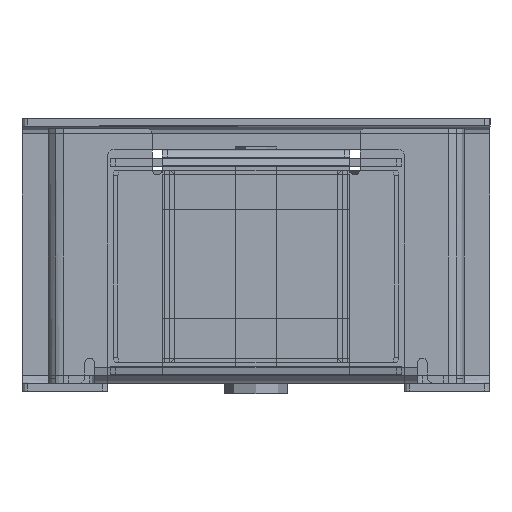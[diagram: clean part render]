
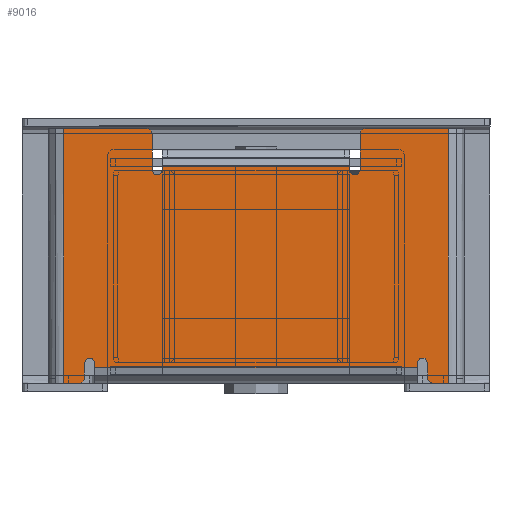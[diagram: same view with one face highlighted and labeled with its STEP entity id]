
A CAD part, front view. The second image highlights one B-rep face of the part: STEP entity #9016.
In plain terms, the highlighted planar face has unit normal (0, -1, 0).
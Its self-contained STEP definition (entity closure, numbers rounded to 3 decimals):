
#382=CIRCLE('',#9705,1.);
#383=CIRCLE('',#9706,1.);
#384=CIRCLE('',#9707,1.);
#385=CIRCLE('',#9708,1.);
#386=CIRCLE('',#9709,1.);
#387=CIRCLE('',#9710,1.);
#388=CIRCLE('',#9711,1.);
#389=CIRCLE('',#9712,1.);
#801=FACE_OUTER_BOUND('',#1293,.T.);
#1293=EDGE_LOOP('',(#7093,#7094,#7095,#7096,#7097,#7098,#7099,#7100,#7101,
#7102,#7103,#7104,#7105,#7106,#7107,#7108,#7109,#7110,#7111,#7112,#7113,
#7114,#7115,#7116));
#2124=LINE('',#14150,#3079);
#2159=LINE('',#14264,#3114);
#2160=LINE('',#14266,#3115);
#2161=LINE('',#14270,#3116);
#2162=LINE('',#14274,#3117);
#2163=LINE('',#14276,#3118);
#2164=LINE('',#14278,#3119);
#2165=LINE('',#14282,#3120);
#2166=LINE('',#14286,#3121);
#2167=LINE('',#14288,#3122);
#2168=LINE('',#14290,#3123);
#2169=LINE('',#14294,#3124);
#2170=LINE('',#14298,#3125);
#2171=LINE('',#14300,#3126);
#2172=LINE('',#14302,#3127);
#2173=LINE('',#14305,#3128);
#3079=VECTOR('',#11601,10.);
#3114=VECTOR('',#11688,10.);
#3115=VECTOR('',#11689,10.);
#3116=VECTOR('',#11692,10.);
#3117=VECTOR('',#11695,10.);
#3118=VECTOR('',#11696,10.);
#3119=VECTOR('',#11697,10.);
#3120=VECTOR('',#11700,10.);
#3121=VECTOR('',#11703,10.);
#3122=VECTOR('',#11704,10.);
#3123=VECTOR('',#11705,10.);
#3124=VECTOR('',#11708,10.);
#3125=VECTOR('',#11711,10.);
#3126=VECTOR('',#11712,10.);
#3127=VECTOR('',#11713,10.);
#3128=VECTOR('',#11716,10.);
#3877=VERTEX_POINT('',#14147);
#3878=VERTEX_POINT('',#14149);
#3930=VERTEX_POINT('',#14261);
#3931=VERTEX_POINT('',#14263);
#3932=VERTEX_POINT('',#14265);
#3933=VERTEX_POINT('',#14267);
#3934=VERTEX_POINT('',#14269);
#3935=VERTEX_POINT('',#14271);
#3936=VERTEX_POINT('',#14273);
#3937=VERTEX_POINT('',#14275);
#3938=VERTEX_POINT('',#14277);
#3939=VERTEX_POINT('',#14279);
#3940=VERTEX_POINT('',#14281);
#3941=VERTEX_POINT('',#14283);
#3942=VERTEX_POINT('',#14285);
#3943=VERTEX_POINT('',#14287);
#3944=VERTEX_POINT('',#14289);
#3945=VERTEX_POINT('',#14291);
#3946=VERTEX_POINT('',#14293);
#3947=VERTEX_POINT('',#14295);
#3948=VERTEX_POINT('',#14297);
#3949=VERTEX_POINT('',#14299);
#3950=VERTEX_POINT('',#14301);
#3951=VERTEX_POINT('',#14303);
#4960=EDGE_CURVE('',#3877,#3878,#2124,.T.);
#5014=EDGE_CURVE('',#3878,#3930,#382,.T.);
#5015=EDGE_CURVE('',#3877,#3931,#2159,.T.);
#5016=EDGE_CURVE('',#3932,#3931,#2160,.T.);
#5017=EDGE_CURVE('',#3933,#3932,#383,.T.);
#5018=EDGE_CURVE('',#3933,#3934,#2161,.T.);
#5019=EDGE_CURVE('',#3935,#3934,#384,.T.);
#5020=EDGE_CURVE('',#3935,#3936,#2162,.T.);
#5021=EDGE_CURVE('',#3936,#3937,#2163,.T.);
#5022=EDGE_CURVE('',#3937,#3938,#2164,.T.);
#5023=EDGE_CURVE('',#3939,#3938,#385,.T.);
#5024=EDGE_CURVE('',#3939,#3940,#2165,.T.);
#5025=EDGE_CURVE('',#3941,#3940,#386,.T.);
#5026=EDGE_CURVE('',#3942,#3941,#2166,.T.);
#5027=EDGE_CURVE('',#3942,#3943,#2167,.T.);
#5028=EDGE_CURVE('',#3944,#3943,#2168,.T.);
#5029=EDGE_CURVE('',#3945,#3944,#387,.T.);
#5030=EDGE_CURVE('',#3945,#3946,#2169,.T.);
#5031=EDGE_CURVE('',#3947,#3946,#388,.T.);
#5032=EDGE_CURVE('',#3947,#3948,#2170,.T.);
#5033=EDGE_CURVE('',#3948,#3949,#2171,.T.);
#5034=EDGE_CURVE('',#3949,#3950,#2172,.T.);
#5035=EDGE_CURVE('',#3951,#3950,#389,.T.);
#5036=EDGE_CURVE('',#3951,#3930,#2173,.T.);
#7093=ORIENTED_EDGE('',*,*,#5014,.F.);
#7094=ORIENTED_EDGE('',*,*,#4960,.F.);
#7095=ORIENTED_EDGE('',*,*,#5015,.T.);
#7096=ORIENTED_EDGE('',*,*,#5016,.F.);
#7097=ORIENTED_EDGE('',*,*,#5017,.F.);
#7098=ORIENTED_EDGE('',*,*,#5018,.T.);
#7099=ORIENTED_EDGE('',*,*,#5019,.F.);
#7100=ORIENTED_EDGE('',*,*,#5020,.T.);
#7101=ORIENTED_EDGE('',*,*,#5021,.T.);
#7102=ORIENTED_EDGE('',*,*,#5022,.T.);
#7103=ORIENTED_EDGE('',*,*,#5023,.F.);
#7104=ORIENTED_EDGE('',*,*,#5024,.T.);
#7105=ORIENTED_EDGE('',*,*,#5025,.F.);
#7106=ORIENTED_EDGE('',*,*,#5026,.F.);
#7107=ORIENTED_EDGE('',*,*,#5027,.T.);
#7108=ORIENTED_EDGE('',*,*,#5028,.F.);
#7109=ORIENTED_EDGE('',*,*,#5029,.F.);
#7110=ORIENTED_EDGE('',*,*,#5030,.T.);
#7111=ORIENTED_EDGE('',*,*,#5031,.F.);
#7112=ORIENTED_EDGE('',*,*,#5032,.T.);
#7113=ORIENTED_EDGE('',*,*,#5033,.T.);
#7114=ORIENTED_EDGE('',*,*,#5034,.T.);
#7115=ORIENTED_EDGE('',*,*,#5035,.F.);
#7116=ORIENTED_EDGE('',*,*,#5036,.T.);
#8111=PLANE('',#9704);
#9016=ADVANCED_FACE('',(#801),#8111,.T.);
#9704=AXIS2_PLACEMENT_3D('',#14260,#11684,#11685);
#9705=AXIS2_PLACEMENT_3D('',#14262,#11686,#11687);
#9706=AXIS2_PLACEMENT_3D('',#14268,#11690,#11691);
#9707=AXIS2_PLACEMENT_3D('',#14272,#11693,#11694);
#9708=AXIS2_PLACEMENT_3D('',#14280,#11698,#11699);
#9709=AXIS2_PLACEMENT_3D('',#14284,#11701,#11702);
#9710=AXIS2_PLACEMENT_3D('',#14292,#11706,#11707);
#9711=AXIS2_PLACEMENT_3D('',#14296,#11709,#11710);
#9712=AXIS2_PLACEMENT_3D('',#14304,#11714,#11715);
#11601=DIRECTION('',(-1.,0.,0.));
#11684=DIRECTION('center_axis',(0.,-1.,0.));
#11685=DIRECTION('ref_axis',(0.,0.,
1.));
#11686=DIRECTION('center_axis',(0.,1.,0.));
#11687=DIRECTION('ref_axis',(-0.707,0.,-0.707));
#11688=DIRECTION('',(0.,0.,1.));
#11689=DIRECTION('',(1.,0.,0.));
#11690=DIRECTION('center_axis',(0.,1.,0.));
#11691=DIRECTION('ref_axis',(-0.707,0.,0.707));
#11692=DIRECTION('',(0.,0.,-1.));
#11693=DIRECTION('center_axis',(0.,-1.,0.));
#11694=DIRECTION('ref_axis',(-0.707,0.,-0.707));
#11695=DIRECTION('',(0.,0.,1.));
#11696=DIRECTION('',(-1.,0.,0.));
#11697=DIRECTION('',(0.,0.,-1.));
#11698=DIRECTION('center_axis',(0.,-1.,0.));
#11699=DIRECTION('ref_axis',(-0.707,0.,-0.707));
#11700=DIRECTION('',(0.,0.,1.));
#11701=DIRECTION('center_axis',(0.,1.,0.));
#11702=DIRECTION('ref_axis',(0.707,0.,0.707));
#11703=DIRECTION('',(1.,0.,0.));
#11704=DIRECTION('',(0.,0.,-1.));
#11705=DIRECTION('',(-1.,0.,0.));
#11706=DIRECTION('center_axis',(0.,1.,0.));
#11707=DIRECTION('ref_axis',(0.707,0.,-0.707));
#11708=DIRECTION('',(0.,0.,1.));
#11709=DIRECTION('center_axis',(0.,-1.,0.));
#11710=DIRECTION('ref_axis',(0.707,0.,0.707));
#11711=DIRECTION('',(0.,0.,-1.));
#11712=DIRECTION('',(1.,0.,0.));
#11713=DIRECTION('',(0.,0.,1.));
#11714=DIRECTION('center_axis',(0.,-1.,0.));
#11715=DIRECTION('ref_axis',(0.707,0.,0.707));
#11716=DIRECTION('',(0.,0.,-1.));
#14147=CARTESIAN_POINT('',(37.,-12311.5,-24.5));
#14149=CARTESIAN_POINT('',(34.,-12311.5,-24.5));
#14150=CARTESIAN_POINT('',(-40.,-12311.5,-24.5));
#14260=CARTESIAN_POINT('Origin',(0.,-12311.5,0.));
#14261=CARTESIAN_POINT('',(33.,-12311.5,-23.5));
#14262=CARTESIAN_POINT('Origin',(34.,-12311.5,-23.5));
#14263=CARTESIAN_POINT('',(37.,-12311.5,24.5));
#14264=CARTESIAN_POINT('',(37.,-12311.5,-12.25));
#14265=CARTESIAN_POINT('',(21.,-12311.5,24.5));
#14266=CARTESIAN_POINT('',(40.,-12311.5,24.5));
#14267=CARTESIAN_POINT('',(20.,-12311.5,23.5));
#14268=CARTESIAN_POINT('Origin',(21.,-12311.5,23.5));
#14269=CARTESIAN_POINT('',(20.,-12311.5,16.5));
#14270=CARTESIAN_POINT('',(20.,-12311.5,7.75));
#14271=CARTESIAN_POINT('',(18.,-12311.5,16.5));
#14272=CARTESIAN_POINT('Origin',(19.,-12311.5,16.5));
#14273=CARTESIAN_POINT('',(18.,-12311.5,17.5));
#14274=CARTESIAN_POINT('',(18.,-12311.5,10.25));
#14275=CARTESIAN_POINT('',(-18.,-12311.5,17.5));
#14276=CARTESIAN_POINT('',(9.,-12311.5,17.5));
#14277=CARTESIAN_POINT('',(-18.,-12311.5,16.5));
#14278=CARTESIAN_POINT('',(-18.,-12311.5,7.75));
#14279=CARTESIAN_POINT('',(-20.,-12311.5,16.5));
#14280=CARTESIAN_POINT('Origin',(-19.,-12311.5,16.5));
#14281=CARTESIAN_POINT('',(-20.,-12311.5,23.5));
#14282=CARTESIAN_POINT('',(-20.,-12311.5,12.25));
#14283=CARTESIAN_POINT('',(-21.,-12311.5,24.5));
#14284=CARTESIAN_POINT('Origin',(-21.,-12311.5,23.5));
#14285=CARTESIAN_POINT('',(-37.,-12311.5,24.5));
#14286=CARTESIAN_POINT('',(40.,-12311.5,24.5));
#14287=CARTESIAN_POINT('',(-37.,-12311.5,-24.5));
#14288=CARTESIAN_POINT('',(-37.,-12311.5,12.25));
#14289=CARTESIAN_POINT('',(-34.,-12311.5,-24.5));
#14290=CARTESIAN_POINT('',(-40.,-12311.5,-24.5));
#14291=CARTESIAN_POINT('',(-33.,-12311.5,-23.5));
#14292=CARTESIAN_POINT('Origin',(-34.,-12311.5,-23.5));
#14293=CARTESIAN_POINT('',(-33.,-12311.5,-20.5));
#14294=CARTESIAN_POINT('',(-33.,-12311.5,-9.75));
#14295=CARTESIAN_POINT('',(-31.,-12311.5,-20.5));
#14296=CARTESIAN_POINT('Origin',(-32.,-12311.5,-20.5));
#14297=CARTESIAN_POINT('',(-31.,-12311.5,-21.5));
#14298=CARTESIAN_POINT('',(-31.,-12311.5,-12.25));
#14299=CARTESIAN_POINT('',(31.,-12311.5,-21.5));
#14300=CARTESIAN_POINT('',(-15.5,-12311.5,-21.5));
#14301=CARTESIAN_POINT('',(31.,-12311.5,-20.5));
#14302=CARTESIAN_POINT('',(31.,-12311.5,-9.75));
#14303=CARTESIAN_POINT('',(33.,-12311.5,-20.5));
#14304=CARTESIAN_POINT('Origin',(32.,-12311.5,-20.5));
#14305=CARTESIAN_POINT('',(33.,-12311.5,-12.25));
